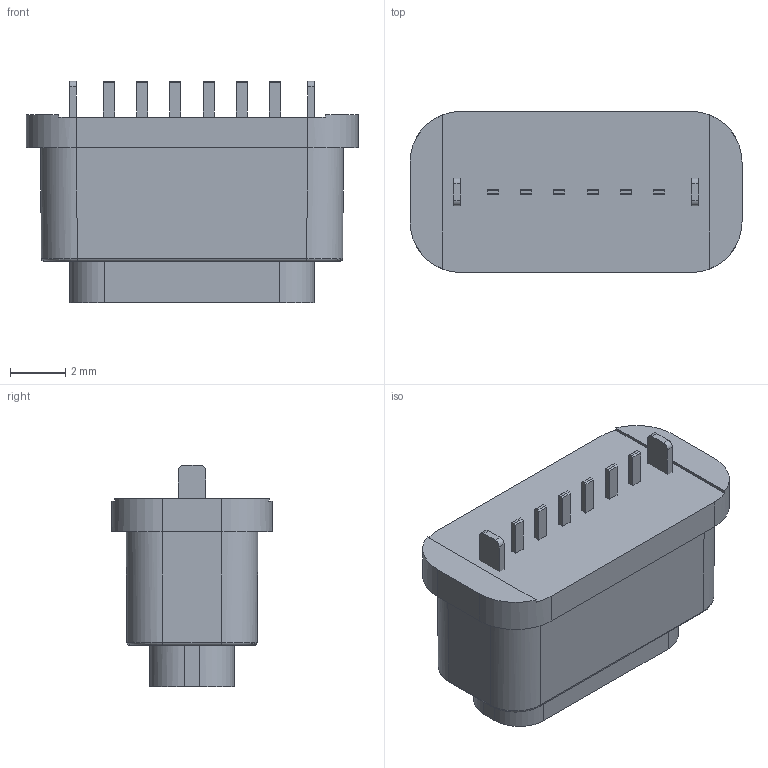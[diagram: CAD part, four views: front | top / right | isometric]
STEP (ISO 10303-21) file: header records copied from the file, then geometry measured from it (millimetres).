
FILE_DESCRIPTION((''),'2;1');
FILE_NAME('H68_B_ASM','2023-07-24T10:24:11',('Administrator'),(''),'CREO PARAMETRIC BY PTC INC, 2019224','CREO PARAMETRIC BY PTC INC, 2019224','');
FILE_SCHEMA(('CONFIG_CONTROL_DESIGN'));
Length unit declared in the file: millimetre
Products named in the file (8): 00_1_1_1_1_1; HT_1_1_1_1_1; 202SDF_ASM_1_ASM_1_ASM_1_ASM_1__ASM; 6_8_ASM_1_ASM_1_ASM_1_ASM_1_ASM; 6_83D0001_ASM_1_ASM_1_ASM_1_ASM; 6_83D0001_ASM_ASM_1_ASM_1_ASM; H68_A_ASM_7_ASM; H68_B_ASM
Assembly tree (7 placements, depth 7):
  H68_B_ASM
    H68_A_ASM_7_ASM
      6_83D0001_ASM_ASM_1_ASM_1_ASM
        6_83D0001_ASM_1_ASM_1_ASM_1_ASM
          6_8_ASM_1_ASM_1_ASM_1_ASM_1_ASM
            202SDF_ASM_1_ASM_1_ASM_1_ASM_1__ASM
              00_1_1_1_1_1
              HT_1_1_1_1_1
Bounding box: 12 x 5.81 x 8 mm (x, y, z)
Volume: 228 mm3; surface area: 772.5 mm2
Topology: 2 solids, 2 shells, 330 faces, 904 edges, 584 vertices
Faces by surface type: plane 231, cylinder 83, cone 8, torus 8
Entity records: 10738 total; most frequent: CARTESIAN_POINT 2026, ORIENTED_EDGE 1808, DIRECTION 1774, EDGE_CURVE 904, VECTOR 670, LINE 670, VERTEX_POINT 584, AXIS2_PLACEMENT_3D 552
